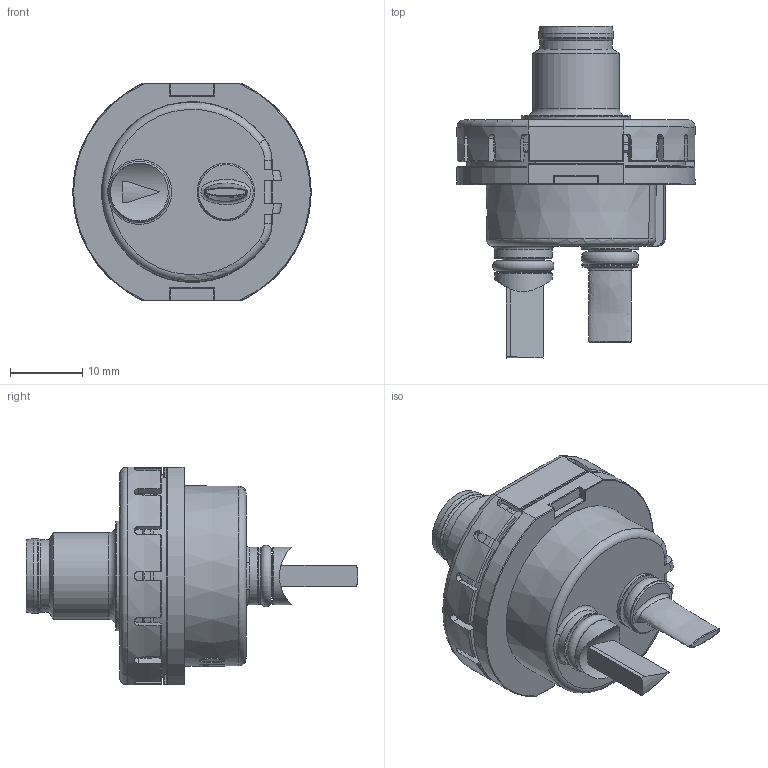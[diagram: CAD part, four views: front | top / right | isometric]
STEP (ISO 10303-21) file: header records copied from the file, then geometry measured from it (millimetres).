
FILE_DESCRIPTION(/* description */ (''),/* implementation_level */ '2;1');
FILE_NAME(/* name */ '201_x10x4x.stp',/* time_stamp */ '2023-01-26T13:20:59+01:00',/* author */ (''),/* organization */ (''),/* preprocessor_version */ 'ST-DEVELOPER v18.1',/* originating_system */ 'SIEMENS PLM Software NX 2000',/* authorisation */ '');
FILE_SCHEMA (('AUTOMOTIVE_DESIGN { 1 0 10303 214 3 1 1 1 }'));
Length unit declared in the file: millimetre
Products named in the file (1): uch10644838C348e
Bounding box: 33 x 46 x 30.2 mm (x, y, z)
Volume: 12684.1 mm3; surface area: 5971.1 mm2
Topology: 2 solids, 2 shells, 517 faces, 1409 edges, 903 vertices
Faces by surface type: cylinder 200, plane 184, cone 65, torus 47, extrusion 8, bspline 8, sphere 4, revolution 1
Full cylindrical faces by diameter (mm): 1 x3, 5.76 x3, 7.98 x4, 10 x1, 10.4 x1, 12 x1, 15.17 x1
Entity records: 22738 total; most frequent: CARTESIAN_POINT 6936, ORIENTED_EDGE 2676, DIRECTION 2339, EDGE_CURVE 1338, AXIS2_PLACEMENT_3D 987, VERTEX_POINT 883, EDGE_LOOP 590, PRESENTATION_STYLE_ASSIGNMENT 518
